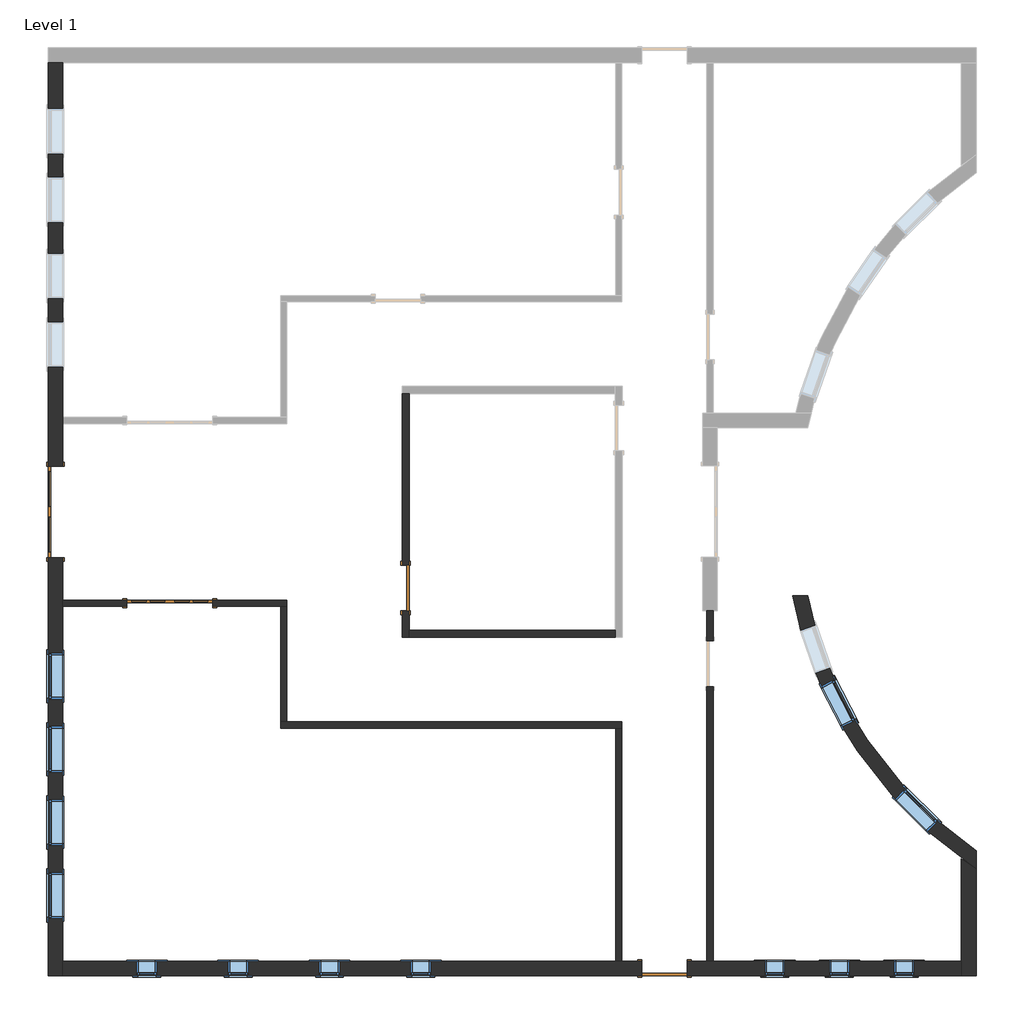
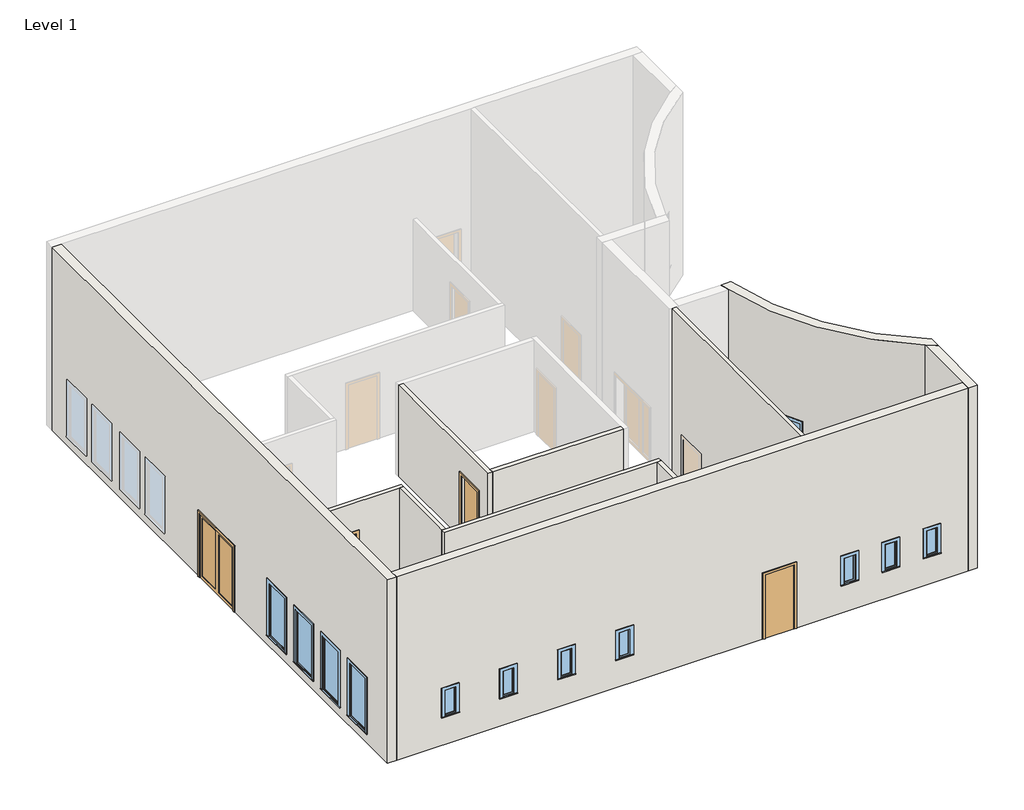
# One storey, part 1 of 2: 13 windows, 11 walls, 4 doors.
"""IFC4 building model written with IfcOpenShell, lengths in millimetres."""

import ifcopenshell
import ifcopenshell.guid

model = None  # the IFC model being written
_history = None  # IfcOwnerHistory: only IFC2X3 demands one
_inside = {}  # id of a spatial element -> (the spatial element, [elements in it])
_under = {}  # id of a project, library or spatial element -> (it, [spatial elements below it])
_declared = {}  # id of a project -> (the project, [libraries it declares])
_typed = {}  # id of a type object -> (the type object, [elements of that type])
_made_of = {}  # id of a material, layer set ... -> (it, [elements and type objects made of it])


def new_model(schema):
    """Start an empty IFC model of exactly this schema.

    Asked for "IFC4X3", IfcOpenShell would pick the latest addendum, in which some entities
    have other attributes; the version numbers below select the first issue.
    IFC2X3 requires an IfcOwnerHistory on every rooted entity: one is made here for all.
    """
    global model, _history
    if schema == "IFC4X3":
        model = ifcopenshell.file(schema_version=(4, 3, 0, 0))
    else:
        model = ifcopenshell.file(schema=schema)
    _inside.clear()
    _under.clear()
    _declared.clear()
    _typed.clear()
    _made_of.clear()
    _history = None
    if model.schema == "IFC2X3":
        org = make("IfcOrganization", Name="unknown")
        user = make(
            "IfcPersonAndOrganization",
            ThePerson=make("IfcPerson", FamilyName="unknown"),
            TheOrganization=org,
        )
        app = make(
            "IfcApplication",
            ApplicationDeveloper=org,
            Version="unknown",
            ApplicationFullName="unknown",
            ApplicationIdentifier="unknown",
        )
        _history = make(
            "IfcOwnerHistory",
            OwningUser=user,
            OwningApplication=app,
            ChangeAction="ADDED",
            CreationDate=0,
        )
    return model


def make(cls, **values):
    """One entity of the class cls with the attributes given. An attribute that is None is left unset."""
    return model.create_entity(
        cls, **{name: value for name, value in values.items() if value is not None}
    )


def rooted(cls, **values):
    """An entity with a GlobalId (a new one), such as an element, a storey or a relation."""
    return make(cls, GlobalId=ifcopenshell.guid.new(), OwnerHistory=_history, **values)


def si_unit(unit_type, name, prefix=None):
    """IfcSIUnit, for example si_unit("LENGTHUNIT", "METRE", prefix="MILLI")."""
    return make("IfcSIUnit", UnitType=unit_type, Prefix=prefix, Name=name)


def assignment(units):
    """IfcUnitAssignment: the units of a project."""
    return None if units is None else make("IfcUnitAssignment", Units=units)


def point(xyz):
    """IfcCartesianPoint."""
    return None if xyz is None else make("IfcCartesianPoint", Coordinates=xyz)


def direction(xyz):
    """IfcDirection."""
    return None if xyz is None else make("IfcDirection", DirectionRatios=xyz)


def frame(location, z_axis=None, x_axis=None):
    """IfcAxis2Placement3D, a coordinate frame: its origin and axes. An axis left out is left unset."""
    return make(
        "IfcAxis2Placement3D",
        Location=point(location),
        Axis=direction(z_axis),
        RefDirection=direction(x_axis),
    )


def origin():
    """The frame at (0, 0, 0) with its axes left unset."""
    return frame((0.0, 0.0, 0.0))


def origin_with_axes():
    """The frame at (0, 0, 0) with the z axis (0, 0, 1) and the x axis (1, 0, 0) written out."""
    return frame((0.0, 0.0, 0.0), z_axis=(0.0, 0.0, 1.0), x_axis=(1.0, 0.0, 0.0))


def place(relative_to, where):
    """IfcLocalPlacement: puts the frame where relative to a parent placement (None: the world)."""
    return make(
        "IfcLocalPlacement", PlacementRelTo=relative_to, RelativePlacement=where
    )


def context(
    kind, dimensions, precision=None, world=None, true_north=None, identifier=None
):
    """IfcGeometricRepresentationContext, for example the 3D "Model" context."""
    return make(
        "IfcGeometricRepresentationContext",
        ContextIdentifier=identifier,
        ContextType=kind,
        CoordinateSpaceDimension=dimensions,
        Precision=precision,
        WorldCoordinateSystem=world,
        TrueNorth=true_north,
    )


def project(units=None, contexts=None):
    """IfcProject with its units and contexts."""
    return rooted(
        "IfcProject",
        Name="project",
        RepresentationContexts=contexts,
        UnitsInContext=assignment(units),
    )


def spatial(cls, under=None, at=None, **own):
    """A site, building, storey or space (cls), placed at a placement, below another one or the project."""
    s = rooted(cls, ObjectPlacement=at, **own)
    if under is not None:
        _under.setdefault(under.id(), (under, []))[1].append(s)
    return s


def polyline(points):
    """IfcPolyline through the points."""
    return make("IfcPolyline", Points=[point(p) for p in points])


def circle_curve(where, radius):
    """IfcCircle in the frame where."""
    return make("IfcCircle", Position=where, Radius=radius)


def outline(outer, holes=None, kind="AREA"):
    """IfcArbitraryClosedProfileDef: a profile drawn as a closed curve; with holes, ...WithVoids."""
    if holes is None:
        return make("IfcArbitraryClosedProfileDef", ProfileType=kind, OuterCurve=outer)
    return make(
        "IfcArbitraryProfileDefWithVoids",
        ProfileType=kind,
        OuterCurve=outer,
        InnerCurves=holes,
    )


def extrude(swept, where, along, depth):
    """IfcExtrudedAreaSolid: the profile swept, set in the frame where, extruded along a direction by depth."""
    return make(
        "IfcExtrudedAreaSolid",
        SweptArea=swept,
        Position=where,
        ExtrudedDirection=direction(along),
        Depth=depth,
    )


def faces_of(points, faces, orient=None, outer=None):
    """IfcFace entities. A face is a list of loops; a loop is a list of indices into points, from 0.

    orient and outer hold one flag for each loop. By default every Orientation is true, the
    first loop of a face is its IfcFaceOuterBound and the others are IfcFaceBound.
    """
    made = []
    for i, loops in enumerate(faces):
        bounds = []
        for j, loop in enumerate(loops):
            is_outer = j == 0 if outer is None else outer[i][j]
            bounds.append(
                make(
                    "IfcFaceOuterBound" if is_outer else "IfcFaceBound",
                    Bound=make("IfcPolyLoop", Polygon=[points[k] for k in loop]),
                    Orientation=True if orient is None else orient[i][j],
                )
            )
        made.append(make("IfcFace", Bounds=bounds))
    return made


def faceted_brep(points, faces, orient=None, outer=None, voids=None):
    """IfcFacetedBrep: a solid bounded by flat faces; with voids (closed shells), ...WithVoids."""
    shared = [point(p) for p in points]
    hull = make("IfcClosedShell", CfsFaces=faces_of(shared, faces, orient, outer))
    if voids is None:
        return make("IfcFacetedBrep", Outer=hull)
    return make(
        "IfcFacetedBrepWithVoids",
        Outer=hull,
        Voids=[
            make(cls, CfsFaces=faces_of(shared, fs, o, b)) for cls, fs, o, b in voids
        ],
    )


def shape(context_of_items, identifier, shape_type, items):
    """IfcShapeRepresentation: the items that make up one representation, for example the "Body"."""
    return make(
        "IfcShapeRepresentation",
        ContextOfItems=context_of_items,
        RepresentationIdentifier=identifier,
        RepresentationType=shape_type,
        Items=items,
    )


def source(mapping_origin, context_of_items, identifier, shape_type, items):
    """IfcRepresentationMap: a shape defined once, which mapped items show again and again."""
    return make(
        "IfcRepresentationMap",
        MappingOrigin=mapping_origin,
        MappedRepresentation=shape(context_of_items, identifier, shape_type, items),
    )


def transform(
    local_origin,
    x_axis=None,
    y_axis=None,
    z_axis=None,
    scale=None,
    scale2=None,
    scale3=None,
    uniform=True,
):
    """IfcCartesianTransformationOperator3D, or its non-uniform kind. x_axis, y_axis, z_axis: its Axis1, 2, 3."""
    if uniform:
        return make(
            "IfcCartesianTransformationOperator3D",
            Axis1=direction(x_axis),
            Axis2=direction(y_axis),
            LocalOrigin=point(local_origin),
            Scale=scale,
            Axis3=direction(z_axis),
        )
    return make(
        "IfcCartesianTransformationOperator3DnonUniform",
        Axis1=direction(x_axis),
        Axis2=direction(y_axis),
        LocalOrigin=point(local_origin),
        Scale=scale,
        Axis3=direction(z_axis),
        Scale2=scale2,
        Scale3=scale3,
    )


def mapped(mapping_source, mapping_target):
    """IfcMappedItem: shows the shape of a source again, moved by a transform."""
    return make(
        "IfcMappedItem", MappingSource=mapping_source, MappingTarget=mapping_target
    )


def made_of(thing, what):
    """Note that an element or type object is made of a material, layer set ...; save() writes the relation."""
    if what is not None:
        _made_of.setdefault(what.id(), (what, []))[1].append(thing)
    return thing


def element(
    cls,
    number,
    at=None,
    inside=None,
    cuts=None,
    type_object=None,
    material=None,
    context=None,
    identifier="Body",
    shape_type=None,
    held_by="IfcProductDefinitionShape",
    body=None,
    shapes=None,
    **own,
):
    """One element of the class cls, such as IfcWall. Its Tag is "e" and its number.

    at: its placement. inside: the storey or other place that contains it. cuts: it is an
    opening in that element (IfcRelVoidsElement). A single representation is given by context,
    identifier, shape_type and body (its items); several are given by shapes. held_by: the class
    of the entity that holds the representations. save() writes the other relations.
    """
    e = rooted(cls, Tag="e%d" % number, ObjectPlacement=at, **own)
    if body is not None:
        shapes = [shape(context, identifier, shape_type, body)]
    if shapes is not None:
        e.Representation = make(held_by, Representations=shapes)
    if inside is not None:
        _inside.setdefault(inside.id(), (inside, []))[1].append(e)
    if cuts is not None:
        rooted(
            "IfcRelVoidsElement", RelatingBuildingElement=cuts, RelatedOpeningElement=e
        )
    if type_object is not None:
        _typed.setdefault(type_object.id(), (type_object, []))[1].append(e)
    return made_of(e, material)


def aggregate(whole, parts):
    """IfcRelAggregates: a whole, such as a stair, and the parts it consists of."""
    return rooted("IfcRelAggregates", RelatingObject=whole, RelatedObjects=parts)


def save(model, path):
    """Write the relations noted so far, then the file.

    IfcRelAggregates (storeys below a building ...), IfcRelContainedInSpatialStructure (elements
    in a storey), IfcRelDefinesByType, IfcRelAssociatesMaterial and IfcRelDeclares: one each for
    every whole, place, type object, material and project.
    """
    for whole, parts in _under.values():
        aggregate(whole, parts)
    for where, things in _inside.values():
        rooted(
            "IfcRelContainedInSpatialStructure",
            RelatedElements=things,
            RelatingStructure=where,
        )
    for kind, things in _typed.values():
        rooted("IfcRelDefinesByType", RelatedObjects=things, RelatingType=kind)
    for what, things in _made_of.values():
        rooted("IfcRelAssociatesMaterial", RelatedObjects=things, RelatingMaterial=what)
    for by, libraries in _declared.values():
        rooted("IfcRelDeclares", RelatingContext=by, RelatedDefinitions=libraries)
    model.write(path)


def plane_surface(at):
    """IfcPlane: the flat surface through the origin of the frame at, square to its z axis."""
    return make("IfcPlane", Position=at)


def cylinder_surface(at, radius):
    """IfcCylindricalSurface: all points at the distance radius from the z axis of the frame at."""
    return make("IfcCylindricalSurface", Position=at, Radius=radius)


def revolved_surface(curve, axis_point, axis_direction):
    """IfcSurfaceOfRevolution: the curve turned about the line through axis_point along axis_direction."""
    return make(
        "IfcSurfaceOfRevolution",
        SweptCurve=make("IfcArbitraryOpenProfileDef", ProfileType="CURVE", Curve=curve),
        AxisPosition=make("IfcAxis1Placement", Location=point(axis_point), Axis=direction(axis_direction)),
    )


def advanced_brep(points, edges, surfaces, faces):
    """IfcAdvancedBrep: a solid bounded by faces that lie on surfaces and meet in shared edges.

    An edge is (start, end): straight between two places in points (the first is 0);
    or (start, end, curve); or (start, end, curve, False) where it runs against its curve.
    A face is (place in surfaces, loops), or (place, loops, False) where it looks against
    its surface's normal. A loop lists edges by number (the first is 1), with a minus sign
    where the edge is run from its end to its start. The first loop is the outer one.
    """
    corners = [point(p) for p in points]
    vertices = [make("IfcVertexPoint", VertexGeometry=c) for c in corners]
    made = []
    for start, end, *more in edges:
        made.append(
            make(
                "IfcEdgeCurve",
                EdgeStart=vertices[start],
                EdgeEnd=vertices[end],
                EdgeGeometry=more[0] if more else make("IfcPolyline", Points=[corners[start], corners[end]]),
                SameSense=more[1] if len(more) > 1 else True,
            )
        )
    hull = []
    for where, loops, *sense in faces:
        bounds = []
        for j, loop in enumerate(loops):
            ring = [make("IfcOrientedEdge", EdgeElement=made[abs(k) - 1], Orientation=k > 0) for k in loop]
            bounds.append(
                make(
                    "IfcFaceOuterBound" if j == 0 else "IfcFaceBound",
                    Bound=make("IfcEdgeLoop", EdgeList=ring),
                    Orientation=True,
                )
            )
        hull.append(make("IfcAdvancedFace", Bounds=bounds, FaceSurface=surfaces[where], SameSense=sense[0] if sense else True))
    return make("IfcAdvancedBrep", Outer=make("IfcClosedShell", CfsFaces=hull))


def door_e9d87526(model_context):
    return source(origin(), model_context, "Body", "SweptSolid", [
        extrude(outline(polyline([(0.0, 990.6), (2209.8, 990.6), (2209.8, -990.6), (0.0, -990.6), (0.0, -914.4), (2133.6, -914.4), (2133.6, 914.4), (0.0, 914.4), (0.0, 990.6)])), frame((0.0, -170.65625, 0.0), z_axis=(0.0, 1.0, 0.0), x_axis=(0.0, 0.0, 1.0)), (0.0, 0.0, 1.0), 25.4),
        extrude(outline(polyline([(2133.6, 914.4), (0.0, 914.4), (0.0, 990.6), (2209.8, 990.6), (2209.8, -990.6), (0.0, -990.6), (0.0, -914.4), (2133.6, -914.4), (2133.6, 914.4)])), frame((0.0, 150.01875, 0.0), z_axis=(0.0, 1.0, 0.0), x_axis=(0.0, 0.0, 1.0)), (0.0, 0.0, 1.0), 25.4),
        extrude(outline(polyline([(812.8, 124.61875), (101.6, 124.61875), (101.6, 131.7625), (812.8, 131.7625), (812.8, 124.61875)])), frame((0.0, 0.0, 101.6), z_axis=(0.0, 0.0, 1.0), x_axis=(1.0, 0.0, 0.0)), (0.0, 0.0, 1.0), 1930.4),
        extrude(outline(polyline([(-101.6, 124.61875), (-812.8, 124.61875), (-812.8, 131.7625), (-101.6, 131.7625), (-101.6, 124.61875)])), frame((0.0, 0.0, 101.6), z_axis=(0.0, 0.0, 1.0), x_axis=(1.0, 0.0, 0.0)), (0.0, 0.0, 1.0), 1930.4),
        extrude(outline(polyline([(2133.6, 914.4), (2133.6, -914.4), (0.0, -914.4), (0.0, 914.4), (2133.6, 914.4)]), holes=[polyline([(2032.0, -101.6), (101.6, -101.6), (101.6, -812.8), (2032.0, -812.8), (2032.0, -101.6)]), polyline([(2032.0, 812.8), (101.6, 812.8), (101.6, 101.6), (2032.0, 101.6), (2032.0, 812.8)])]), frame((0.0, 99.21875, 0.0), z_axis=(0.0, 1.0, 0.0), x_axis=(0.0, 0.0, 1.0)), (0.0, 0.0, 1.0), 50.8),
    ])


def door_c173eac2(model_context):
    return source(origin(), model_context, "Body", "SweptSolid", [
        extrude(outline(polyline([(2108.2, -939.8), (0.0, -939.8), (0.0, -863.6), (2032.0, -863.6), (2032.0, 863.6), (0.0, 863.6), (0.0, 939.8), (2108.2, 939.8), (2108.2, -939.8)])), frame((0.0, 61.9125, 0.0), z_axis=(0.0, 1.0, 0.0), x_axis=(0.0, 0.0, 1.0)), (0.0, 0.0, 1.0), 25.4),
        extrude(outline(polyline([(469.9, 49.2125), (762.0, 49.2125), (762.0, 23.8125), (469.9, 23.8125), (469.9, 49.2125)])), frame((0.0, 0.0, 1066.8), z_axis=(0.0, 0.0, 1.0), x_axis=(1.0, 0.0, 0.0)), (0.0, 0.0, 1.0), 787.4),
        extrude(outline(polyline([(101.6, 49.2125), (393.7, 49.2125), (393.7, 23.8125), (101.6, 23.8125), (101.6, 49.2125)])), frame((0.0, 0.0, 1066.8), z_axis=(0.0, 0.0, 1.0), x_axis=(1.0, 0.0, 0.0)), (0.0, 0.0, 1.0), 787.4),
        extrude(outline(polyline([(469.9, 49.2125), (762.0, 49.2125), (762.0, 23.8125), (469.9, 23.8125), (469.9, 49.2125)])), frame((0.0, 0.0, 304.8), z_axis=(0.0, 0.0, 1.0), x_axis=(1.0, 0.0, 0.0)), (0.0, 0.0, 1.0), 558.8),
        extrude(outline(polyline([(101.6, 49.2125), (393.7, 49.2125), (393.7, 23.8125), (101.6, 23.8125), (101.6, 49.2125)])), frame((0.0, 0.0, 304.8), z_axis=(0.0, 0.0, 1.0), x_axis=(1.0, 0.0, 0.0)), (0.0, 0.0, 1.0), 558.8),
        extrude(outline(polyline([(-393.7, 49.2125), (-101.6, 49.2125), (-101.6, 23.8125), (-393.7, 23.8125), (-393.7, 49.2125)])), frame((0.0, 0.0, 1066.8), z_axis=(0.0, 0.0, 1.0), x_axis=(1.0, 0.0, 0.0)), (0.0, 0.0, 1.0), 787.4),
        extrude(outline(polyline([(-762.0, 49.2125), (-469.9, 49.2125), (-469.9, 23.8125), (-762.0, 23.8125), (-762.0, 49.2125)])), frame((0.0, 0.0, 1066.8), z_axis=(0.0, 0.0, 1.0), x_axis=(1.0, 0.0, 0.0)), (0.0, 0.0, 1.0), 787.4),
        extrude(outline(polyline([(-393.7, 49.2125), (-101.6, 49.2125), (-101.6, 23.8125), (-393.7, 23.8125), (-393.7, 49.2125)])), frame((0.0, 0.0, 304.8), z_axis=(0.0, 0.0, 1.0), x_axis=(1.0, 0.0, 0.0)), (0.0, 0.0, 1.0), 558.8),
        extrude(outline(polyline([(-762.0, 49.2125), (-469.9, 49.2125), (-469.9, 23.8125), (-762.0, 23.8125), (-762.0, 49.2125)])), frame((0.0, 0.0, 304.8), z_axis=(0.0, 0.0, 1.0), x_axis=(1.0, 0.0, 0.0)), (0.0, 0.0, 1.0), 558.8),
        extrude(outline(polyline([(2032.0, 0.0), (2032.0, -863.6), (0.0, -863.6), (0.0, 0.0), (0.0, 863.6), (2032.0, 863.6), (2032.0, 0.0)]), holes=[polyline([(1854.2, 469.9), (1854.2, 762.0), (1066.8, 762.0), (1066.8, 469.9), (1854.2, 469.9)]), polyline([(1854.2, 101.6), (1854.2, 393.7), (1066.8, 393.7), (1066.8, 101.6), (1854.2, 101.6)]), polyline([(863.6, 469.9), (863.6, 762.0), (304.8, 762.0), (304.8, 469.9), (863.6, 469.9)]), polyline([(863.6, 101.6), (863.6, 393.7), (304.8, 393.7), (304.8, 101.6), (863.6, 101.6)]), polyline([(1066.8, -393.7), (1854.2, -393.7), (1854.2, -101.6), (1066.8, -101.6), (1066.8, -393.7)]), polyline([(1854.2, -762.0), (1854.2, -469.9), (1066.8, -469.9), (1066.8, -762.0), (1854.2, -762.0)]), polyline([(863.6, -393.7), (863.6, -101.6), (304.8, -101.6), (304.8, -393.7), (863.6, -393.7)]), polyline([(863.6, -762.0), (863.6, -469.9), (304.8, -469.9), (304.8, -762.0), (863.6, -762.0)])]), frame((0.0, 11.1125, 0.0), z_axis=(0.0, 1.0, 0.0), x_axis=(0.0, 0.0, 1.0)), (0.0, 0.0, 1.0), 50.8),
        extrude(outline(polyline([(2032.0, -863.6), (2032.0, 863.6), (0.0, 863.6), (0.0, 939.8), (2108.2, 939.8), (2108.2, -939.8), (0.0, -939.8), (0.0, -863.6), (2032.0, -863.6)])), frame((0.0, -87.3125, 0.0), z_axis=(0.0, 1.0, 0.0), x_axis=(0.0, 0.0, 1.0)), (0.0, 0.0, 1.0), 25.4),
    ])


def door_7b231ec9(model_context):
    return source(origin(), model_context, "Body", "SweptSolid", [
        extrude(outline(polyline([(2209.8, -533.4), (0.0, -533.4), (0.0, -457.2), (2133.6, -457.2), (2133.6, 457.2), (0.0, 457.2), (0.0, 533.4), (2209.8, 533.4), (2209.8, -533.4)])), frame((0.0, 147.6375, 0.0), z_axis=(0.0, 1.0, 0.0), x_axis=(0.0, 0.0, 1.0)), (0.0, 0.0, 1.0), 25.4),
        extrude(outline(polyline([(2209.8, 533.4), (2209.8, -533.4), (0.0, -533.4), (0.0, -457.2), (2133.6, -457.2), (2133.6, 457.2), (0.0, 457.2), (0.0, 533.4), (2209.8, 533.4)])), frame((0.0, -173.0375, 0.0), z_axis=(0.0, 1.0, 0.0), x_axis=(0.0, 0.0, 1.0)), (0.0, 0.0, 1.0), 25.4),
        extrude(outline(polyline([(457.2, 96.8375), (-457.2, 96.8375), (-457.2, 147.6375), (457.2, 147.6375), (457.2, 96.8375)])), origin_with_axes(), (0.0, 0.0, 1.0), 2133.6),
    ])


def door_3dff5d0e(model_context):
    return source(origin(), model_context, "Body", "SweptSolid", [
        extrude(outline(polyline([(2209.8, -533.4), (0.0, -533.4), (0.0, -457.2), (2133.6, -457.2), (2133.6, 457.2), (0.0, 457.2), (0.0, 533.4), (2209.8, 533.4), (2209.8, -533.4)])), frame((0.0, 71.4375, 0.0), z_axis=(0.0, 1.0, 0.0), x_axis=(0.0, 0.0, 1.0)), (0.0, 0.0, 1.0), 25.4),
        extrude(outline(polyline([(2209.8, 533.4), (2209.8, -533.4), (0.0, -533.4), (0.0, -457.2), (2133.6, -457.2), (2133.6, 457.2), (0.0, 457.2), (0.0, 533.4), (2209.8, 533.4)])), frame((0.0, -96.8375, 0.0), z_axis=(0.0, 1.0, 0.0), x_axis=(0.0, 0.0, 1.0)), (0.0, 0.0, 1.0), 25.4),
        extrude(outline(polyline([(457.2, 20.6375), (-457.2, 20.6375), (-457.2, 71.4375), (457.2, 71.4375), (457.2, 20.6375)])), origin_with_axes(), (0.0, 0.0, 1.0), 2133.6),
    ])


def fixed_6768491c(model_context):
    return source(origin(), model_context, "Body", "SweptSolid", [
        extrude(outline(polyline([(-571.5, 179.3875), (495.3, 179.3875), (495.3, 147.6375), (-571.5, 147.6375), (-571.5, 179.3875)])), frame((0.0, 0.0, 304.8), z_axis=(0.0, 0.0, 1.0), x_axis=(1.0, 0.0, 0.0)), (0.0, 0.0, 1.0), 19.05),
        extrude(outline(polyline([(2114.55, -476.25), (2114.55, 400.05), (323.85, 400.05), (323.85, 495.3), (2209.8, 495.3), (2209.8, -571.5), (323.85, -571.5), (323.85, -476.25), (2114.55, -476.25)])), frame((0.0, 147.6375, 0.0), z_axis=(0.0, 1.0, 0.0), x_axis=(0.0, 0.0, 1.0)), (0.0, 0.0, 1.0), 19.05),
        extrude(outline(polyline([(2197.1, 482.6), (2197.1, -558.8), (241.3, -558.8), (241.3, 482.6), (2197.1, 482.6)]), holes=[polyline([(2101.85, 387.35), (336.55, 387.35), (336.55, -463.55), (2101.85, -463.55), (2101.85, 387.35)])]), frame((0.0, -166.6875, 0.0), z_axis=(0.0, 1.0, 0.0), x_axis=(0.0, 0.0, 1.0)), (0.0, 0.0, 1.0), 19.05),
        extrude(outline(polyline([(355.6, 100.0125), (-431.8, 100.0125), (-431.8, 112.7125), (355.6, 112.7125), (355.6, 100.0125)])), frame((0.0, 0.0, 368.3), z_axis=(0.0, 0.0, 1.0), x_axis=(1.0, 0.0, 0.0)), (0.0, 0.0, 1.0), 1701.8),
        extrude(outline(polyline([(2114.55, -476.25), (323.85, -476.25), (323.85, 400.05), (2114.55, 400.05), (2114.55, -476.25)]), holes=[polyline([(2070.1, -431.8), (2070.1, 355.6), (368.3, 355.6), (368.3, -431.8), (2070.1, -431.8)])]), frame((0.0, 84.1375, 0.0), z_axis=(0.0, 1.0, 0.0), x_axis=(0.0, 0.0, 1.0)), (0.0, 0.0, 1.0), 44.45),
        extrude(outline(polyline([(2133.6, -495.3), (304.8, -495.3), (304.8, 419.1), (2133.6, 419.1), (2133.6, -495.3)]), holes=[polyline([(2101.85, -463.55), (2101.85, 387.35), (336.55, 387.35), (336.55, -463.55), (2101.85, -463.55)])]), frame((0.0, -147.6375, 0.0), z_axis=(0.0, 1.0, 0.0), x_axis=(0.0, 0.0, 1.0)), (0.0, 0.0, 1.0), 231.775),
        extrude(outline(polyline([(2133.6, 419.1), (2133.6, -495.3), (304.8, -495.3), (304.8, 419.1), (2133.6, 419.1)]), holes=[polyline([(2114.55, 400.05), (323.85, 400.05), (323.85, -476.25), (2114.55, -476.25), (2114.55, 400.05)])]), frame((0.0, 84.1375, 0.0), z_axis=(0.0, 1.0, 0.0), x_axis=(0.0, 0.0, 1.0)), (0.0, 0.0, 1.0), 63.5),
    ])


def fixed_431f5485(model_context):
    return source(origin(), model_context, "Body", "SweptSolid", [
        extrude(outline(polyline([(-317.5, 179.3875), (241.3, 179.3875), (241.3, 147.6375), (-317.5, 147.6375), (-317.5, 179.3875)])), frame((0.0, 0.0, 914.4), z_axis=(0.0, 0.0, 1.0), x_axis=(1.0, 0.0, 0.0)), (0.0, 0.0, 1.0), 19.05),
        extrude(outline(polyline([(1809.75, -222.25), (1809.75, 146.05), (933.45, 146.05), (933.45, 241.3), (1905.0, 241.3), (1905.0, -317.5), (933.45, -317.5), (933.45, -222.25), (1809.75, -222.25)])), frame((0.0, 147.6375, 0.0), z_axis=(0.0, 1.0, 0.0), x_axis=(0.0, 0.0, 1.0)), (0.0, 0.0, 1.0), 19.05),
        extrude(outline(polyline([(2032.0, 368.3), (2032.0, -444.5), (711.2, -444.5), (711.2, 368.3), (2032.0, 368.3)]), holes=[polyline([(1797.05, 133.35), (946.15, 133.35), (946.15, -209.55), (1797.05, -209.55), (1797.05, 133.35)])]), frame((0.0, -166.6875, 0.0), z_axis=(0.0, 1.0, 0.0), x_axis=(0.0, 0.0, 1.0)), (0.0, 0.0, 1.0), 19.05),
        extrude(outline(polyline([(101.6, 100.0125), (-177.8, 100.0125), (-177.8, 112.7125), (101.6, 112.7125), (101.6, 100.0125)])), frame((0.0, 0.0, 977.9), z_axis=(0.0, 0.0, 1.0), x_axis=(1.0, 0.0, 0.0)), (0.0, 0.0, 1.0), 787.4),
        extrude(outline(polyline([(1809.75, -222.25), (933.45, -222.25), (933.45, 146.05), (1809.75, 146.05), (1809.75, -222.25)]), holes=[polyline([(1765.3, -177.8), (1765.3, 101.6), (977.9, 101.6), (977.9, -177.8), (1765.3, -177.8)])]), frame((0.0, 84.1375, 0.0), z_axis=(0.0, 1.0, 0.0), x_axis=(0.0, 0.0, 1.0)), (0.0, 0.0, 1.0), 44.45),
        extrude(outline(polyline([(1828.8, -241.3), (914.4, -241.3), (914.4, 165.1), (1828.8, 165.1), (1828.8, -241.3)]), holes=[polyline([(1797.05, -209.55), (1797.05, 133.35), (946.15, 133.35), (946.15, -209.55), (1797.05, -209.55)])]), frame((0.0, -147.6375, 0.0), z_axis=(0.0, 1.0, 0.0), x_axis=(0.0, 0.0, 1.0)), (0.0, 0.0, 1.0), 231.775),
        extrude(outline(polyline([(1828.8, 165.1), (1828.8, -241.3), (914.4, -241.3), (914.4, 165.1), (1828.8, 165.1)]), holes=[polyline([(1809.75, 146.05), (933.45, 146.05), (933.45, -222.25), (1809.75, -222.25), (1809.75, 146.05)])]), frame((0.0, 84.1375, 0.0), z_axis=(0.0, 1.0, 0.0), x_axis=(0.0, 0.0, 1.0)), (0.0, 0.0, 1.0), 63.5),
    ])


model = new_model("IFC4")

# Units and contexts
model_context = context("Model", 3, world=origin())
ifc_project = project(units=[si_unit("LENGTHUNIT", "METRE", prefix="MILLI")], contexts=[model_context])

# Site, building, storey
site = spatial("IfcSite", under=ifc_project)
building = spatial("IfcBuilding", under=site)
storey = spatial("IfcBuildingStorey", under=building, Name="Level 1", Elevation=0.0)

# Doors
placement = place(None, origin())
door_shape = door_e9d87526(model_context)
element("IfcDoor", 1, ObjectType="Double-Glass 1 : 72\" x 84\"", at=placement, inside=storey, context=model_context, shape_type="MappedRepresentation", body=[
    mapped(door_shape, transform((-10745.5063726, -435.5710073, 0.0), x_axis=(0.0, 1.0, 0.0), y_axis=(-1.0, 0.0, 0.0), z_axis=(0.0, 0.0, 1.0))),
])
door_2_shape = door_c173eac2(model_context)
element("IfcDoor", 2, ObjectType="Double-Panel 2 : 68\" x 80\"", at=placement, inside=storey, context=model_context, shape_type="MappedRepresentation", body=[
    mapped(door_2_shape, transform((-8461.8876226, -2264.3710073, 0.0), x_axis=(1.0, 0.0, 0.0), y_axis=(0.0, 1.0, 0.0), z_axis=(0.0, 0.0, 1.0))),
])
door_3_shape = door_7b231ec9(model_context)
element("IfcDoor", 3, ObjectType="Sgl Flush : 36\" x 84\"", at=placement, inside=storey, context=model_context, shape_type="MappedRepresentation", body=[
    mapped(door_3_shape, transform((1444.1123774, -9579.5710073, 0.0), x_axis=(-1.0, 0.0, 0.0), y_axis=(0.0, -1.0, 0.0), z_axis=(0.0, 0.0, 1.0))),
])
door_4_shape = door_3dff5d0e(model_context)
element("IfcDoor", 4, ObjectType="Sgl Flush : 36\" x 84\"", at=placement, inside=storey, context=model_context, shape_type="MappedRepresentation", body=[
    mapped(door_4_shape, transform((-3737.4876226, -1959.5710073, 0.0), x_axis=(0.0, -1.0, 0.0), y_axis=(1.0, 0.0, 0.0), z_axis=(0.0, 0.0, 1.0))),
])

# Walls
element("IfcWall", 5, ObjectType="Generic - 12\" Masonry", at=placement, inside=storey, context=model_context, shape_type="Brep", body=[
    faceted_brep([(-10600.2501226, 478.8289927, 2133.6), (-10600.2501226, 478.8289927, 0.0), (-10600.2501226, 1331.3164927, 0.0), (-10600.2501226, 1455.1414927, 0.0), (-10600.2501226, 8560.7914927, 0.0), (-10600.2501226, 8560.7914927, 6096.0), (-10600.2501226, -9431.9335073, 6096.0), (-10600.2501226, -9727.2085073, 6096.0), (-10600.2501226, -9727.2085073, 0.0), (-10600.2501226, -9431.9335073, 0.0), (-10600.2501226, -2326.2835073, 0.0), (-10600.2501226, -2202.4585073, 0.0), (-10600.2501226, -1349.9710073, 0.0), (-10600.2501226, -1349.9710073, 2133.6), (-10600.2501226, 6727.2289927, 2133.6), (-10600.2501226, 7641.6289927, 2133.6), (-10600.2501226, 7641.6289927, 304.8), (-10600.2501226, 6727.2289927, 304.8), (-10600.2501226, 3831.6289927, 2133.6), (-10600.2501226, 4746.0289927, 2133.6), (-10600.2501226, 4746.0289927, 304.8), (-10600.2501226, 3831.6289927, 304.8), (-10600.2501226, 5355.6289927, 2133.6), (-10600.2501226, 6270.0289927, 2133.6), (-10600.2501226, 6270.0289927, 304.8), (-10600.2501226, 5355.6289927, 304.8), (-10600.2501226, 2460.0289927, 2133.6), (-10600.2501226, 3374.4289927, 2133.6), (-10600.2501226, 3374.4289927, 304.8), (-10600.2501226, 2460.0289927, 304.8), (-10600.2501226, -7659.3310073, 2133.6), (-10600.2501226, -7659.3310073, 304.8), (-10600.2501226, -8573.7310073, 304.8), (-10600.2501226, -8573.7310073, 2133.6), (-10600.2501226, -4733.2510073, 2133.6), (-10600.2501226, -4733.2510073, 304.8), (-10600.2501226, -5647.6510073, 304.8), (-10600.2501226, -5647.6510073, 2133.6), (-10600.2501226, -6196.2910073, 2133.6), (-10600.2501226, -6196.2910073, 304.8), (-10600.2501226, -7110.6910073, 304.8), (-10600.2501226, -7110.6910073, 2133.6), (-10600.2501226, -3270.2110073, 2133.6), (-10600.2501226, -3270.2110073, 304.8), (-10600.2501226, -4184.6110073, 304.8), (-10600.2501226, -4184.6110073, 2133.6), (-10895.5251226, 8560.7914927, 0.0), (-10895.5251226, 478.8289927, 0.0), (-10895.5251226, 478.8289927, 2133.6), (-10895.5251226, -1349.9710073, 2133.6), (-10895.5251226, -1349.9710073, 0.0), (-10895.5251226, -9727.2085073, 0.0), (-10895.5251226, -9727.2085073, 6096.0), (-10895.5251226, 8560.7914927, 6096.0), (-10895.5251226, 6727.2289927, 2133.6), (-10895.5251226, 6727.2289927, 304.8), (-10895.5251226, 7641.6289927, 304.8), (-10895.5251226, 7641.6289927, 2133.6), (-10895.5251226, 3831.6289927, 2133.6), (-10895.5251226, 3831.6289927, 304.8), (-10895.5251226, 4746.0289927, 304.8), (-10895.5251226, 4746.0289927, 2133.6), (-10895.5251226, 5355.6289927, 2133.6), (-10895.5251226, 5355.6289927, 304.8), (-10895.5251226, 6270.0289927, 304.8), (-10895.5251226, 6270.0289927, 2133.6), (-10895.5251226, 2460.0289927, 2133.6), (-10895.5251226, 2460.0289927, 304.8), (-10895.5251226, 3374.4289927, 304.8), (-10895.5251226, 3374.4289927, 2133.6), (-10895.5251226, -7659.3310073, 2133.6), (-10895.5251226, -8573.7310073, 2133.6), (-10895.5251226, -8573.7310073, 304.8), (-10895.5251226, -7659.3310073, 304.8), (-10895.5251226, -4733.2510073, 2133.6), (-10895.5251226, -5647.6510073, 2133.6), (-10895.5251226, -5647.6510073, 304.8), (-10895.5251226, -4733.2510073, 304.8), (-10895.5251226, -6196.2910073, 2133.6), (-10895.5251226, -7110.6910073, 2133.6), (-10895.5251226, -7110.6910073, 304.8), (-10895.5251226, -6196.2910073, 304.8), (-10895.5251226, -3270.2110073, 2133.6), (-10895.5251226, -4184.6110073, 2133.6), (-10895.5251226, -4184.6110073, 304.8), (-10895.5251226, -3270.2110073, 304.8)], [[[0, 1, 2, 3, 4, 5, 6, 7, 8, 9, 10, 11, 12, 13], [14, 15, 16, 17], [18, 19, 20, 21], [22, 23, 24, 25], [26, 27, 28, 29], [30, 31, 32, 33], [34, 35, 36, 37], [38, 39, 40, 41], [42, 43, 44, 45]], [[46, 47, 48, 49, 50, 51, 52, 53], [54, 55, 56, 57], [58, 59, 60, 61], [62, 63, 64, 65], [66, 67, 68, 69], [70, 71, 72, 73], [74, 75, 76, 77], [78, 79, 80, 81], [82, 83, 84, 85]], [[4, 3, 2, 1, 47, 46]], [[12, 11, 10, 9, 8, 51, 50]], [[7, 6, 5, 53, 52]], [[8, 7, 52, 51]], [[5, 4, 46, 53]], [[48, 47, 1, 0]], [[49, 48, 0, 13]], [[50, 49, 13, 12]], [[55, 54, 14, 17]], [[56, 55, 17, 16]], [[57, 56, 16, 15]], [[54, 57, 15, 14]], [[59, 58, 18, 21]], [[60, 59, 21, 20]], [[61, 60, 20, 19]], [[58, 61, 19, 18]], [[63, 62, 22, 25]], [[64, 63, 25, 24]], [[65, 64, 24, 23]], [[62, 65, 23, 22]], [[67, 66, 26, 29]], [[68, 67, 29, 28]], [[69, 68, 28, 27]], [[66, 69, 27, 26]], [[31, 30, 70, 73]], [[32, 31, 73, 72]], [[33, 32, 72, 71]], [[30, 33, 71, 70]], [[35, 34, 74, 77]], [[36, 35, 77, 76]], [[37, 36, 76, 75]], [[34, 37, 75, 74]], [[39, 38, 78, 81]], [[40, 39, 81, 80]], [[41, 40, 80, 79]], [[38, 41, 79, 78]], [[43, 42, 82, 85]], [[44, 43, 85, 84]], [[45, 44, 84, 83]], [[42, 45, 83, 82]]]),
])
element("IfcWall", 6, ObjectType="Generic - 12\" Masonry", at=placement, inside=storey, context=model_context, shape_type="Brep", body=[
    faceted_brep([(986.9123774, -9431.9335073, 2133.6), (986.9123774, -9431.9335073, 0.0), (591.6248774, -9431.9335073, 0.0), (467.7998774, -9431.9335073, 0.0), (-10600.2501226, -9431.9335073, 0.0), (-10600.2501226, -9431.9335073, 6096.0), (2296.5998774, -9431.9335073, 6096.0), (2420.4248774, -9431.9335073, 6096.0), (7392.4748774, -9431.9335073, 6096.0), (7392.4748774, -9431.9335073, 0.0), (2420.4248774, -9431.9335073, 0.0), (2296.5998774, -9431.9335073, 0.0), (1901.3123774, -9431.9335073, 0.0), (1901.3123774, -9431.9335073, 2133.6), (6041.5123774, -9431.9335073, 1828.8), (6041.5123774, -9431.9335073, 914.4), (6447.9123774, -9431.9335073, 914.4), (6447.9123774, -9431.9335073, 1828.8), (4746.1123774, -9431.9335073, 1828.8), (4746.1123774, -9431.9335073, 914.4), (5152.5123774, -9431.9335073, 914.4), (5152.5123774, -9431.9335073, 1828.8), (3450.7123774, -9431.9335073, 1828.8), (3450.7123774, -9431.9335073, 914.4), (3857.1123774, -9431.9335073, 914.4), (3857.1123774, -9431.9335073, 1828.8), (-3635.8876226, -9431.9335073, 1828.8), (-3635.8876226, -9431.9335073, 914.4), (-3229.4876226, -9431.9335073, 914.4), (-3229.4876226, -9431.9335073, 1828.8), (-5464.6876226, -9431.9335073, 1828.8), (-5464.6876226, -9431.9335073, 914.4), (-5058.2876226, -9431.9335073, 914.4), (-5058.2876226, -9431.9335073, 1828.8), (-7293.4876226, -9431.9335073, 1828.8), (-7293.4876226, -9431.9335073, 914.4), (-6887.0876226, -9431.9335073, 914.4), (-6887.0876226, -9431.9335073, 1828.8), (-9122.2876226, -9431.9335073, 1828.8), (-9122.2876226, -9431.9335073, 914.4), (-8715.8876226, -9431.9335073, 914.4), (-8715.8876226, -9431.9335073, 1828.8), (-10600.2501226, -9727.2085073, 0.0), (986.9123774, -9727.2085073, 0.0), (986.9123774, -9727.2085073, 2133.6), (1901.3123774, -9727.2085073, 2133.6), (1901.3123774, -9727.2085073, 0.0), (7392.4748774, -9727.2085073, 0.0), (7392.4748774, -9727.2085073, 6096.0), (-10600.2501226, -9727.2085073, 6096.0), (6041.5123774, -9727.2085073, 1828.8), (6447.9123774, -9727.2085073, 1828.8), (6447.9123774, -9727.2085073, 914.4), (6041.5123774, -9727.2085073, 914.4), (4746.1123774, -9727.2085073, 1828.8), (5152.5123774, -9727.2085073, 1828.8), (5152.5123774, -9727.2085073, 914.4), (4746.1123774, -9727.2085073, 914.4), (3450.7123774, -9727.2085073, 1828.8), (3857.1123774, -9727.2085073, 1828.8), (3857.1123774, -9727.2085073, 914.4), (3450.7123774, -9727.2085073, 914.4), (-3635.8876226, -9727.2085073, 1828.8), (-3229.4876226, -9727.2085073, 1828.8), (-3229.4876226, -9727.2085073, 914.4), (-3635.8876226, -9727.2085073, 914.4), (-5464.6876226, -9727.2085073, 1828.8), (-5058.2876226, -9727.2085073, 1828.8), (-5058.2876226, -9727.2085073, 914.4), (-5464.6876226, -9727.2085073, 914.4), (-7293.4876226, -9727.2085073, 1828.8), (-6887.0876226, -9727.2085073, 1828.8), (-6887.0876226, -9727.2085073, 914.4), (-7293.4876226, -9727.2085073, 914.4), (-9122.2876226, -9727.2085073, 1828.8), (-8715.8876226, -9727.2085073, 1828.8), (-8715.8876226, -9727.2085073, 914.4), (-9122.2876226, -9727.2085073, 914.4)], [[[0, 1, 2, 3, 4, 5, 6, 7, 8, 9, 10, 11, 12, 13], [14, 15, 16, 17], [18, 19, 20, 21], [22, 23, 24, 25], [26, 27, 28, 29], [30, 31, 32, 33], [34, 35, 36, 37], [38, 39, 40, 41]], [[42, 43, 44, 45, 46, 47, 48, 49], [50, 51, 52, 53], [54, 55, 56, 57], [58, 59, 60, 61], [62, 63, 64, 65], [66, 67, 68, 69], [70, 71, 72, 73], [74, 75, 76, 77]], [[4, 3, 2, 1, 43, 42]], [[12, 11, 10, 9, 47, 46]], [[8, 7, 6, 5, 49, 48]], [[5, 4, 42, 49]], [[9, 8, 48, 47]], [[44, 43, 1, 0]], [[45, 44, 0, 13]], [[46, 45, 13, 12]], [[15, 14, 50, 53]], [[16, 15, 53, 52]], [[17, 16, 52, 51]], [[14, 17, 51, 50]], [[19, 18, 54, 57]], [[20, 19, 57, 56]], [[21, 20, 56, 55]], [[18, 21, 55, 54]], [[23, 22, 58, 61]], [[24, 23, 61, 60]], [[25, 24, 60, 59]], [[22, 25, 59, 58]], [[27, 26, 62, 65]], [[28, 27, 65, 64]], [[29, 28, 64, 63]], [[26, 29, 63, 62]], [[31, 30, 66, 69]], [[32, 31, 69, 68]], [[33, 32, 68, 67]], [[30, 33, 67, 66]], [[35, 34, 70, 73]], [[36, 35, 73, 72]], [[37, 36, 72, 71]], [[34, 37, 71, 70]], [[39, 38, 74, 77]], [[40, 39, 77, 76]], [[41, 40, 76, 75]], [[38, 41, 75, 74]]]),
])
element("IfcWall", 7, ObjectType="Generic - 12\" Masonry", at=placement, inside=storey, context=model_context, shape_type="AdvancedBrep", body=[
    advanced_brep(
    [(7392.4748774, -7378.5850292, 0.0), (7392.4748774, -9431.9335073, 0.0), (7392.4748774, -9727.2085073, 0.0), (7392.4748774, -9727.2085073, 6096.0), (7392.4748774, -9431.9335073, 6096.0), (7392.4748774, -7378.5850292, 6096.0), (7687.7498774, -7582.8871074, 0.0), (7687.7498774, -7582.8871074, 6096.0), (7687.7498774, -9727.2085073, 6096.0), (7687.7498774, -9727.2085073, 0.0)],
    [
        (0, 1),
        (1, 2),
        (2, 3),
        (3, 4),
        (4, 5),
        (5, 0),
        (6, 7),
        (7, 8),
        (8, 9),
        (9, 6),
        (0, 6, circle_curve(frame((12414.6932373, -435.5710073, 0.0), z_axis=(0.0, 0.0, 1.0), x_axis=(1.0, 0.0, 0.0)), 8569.0210037)),
        (9, 2),
        (3, 8),
        (7, 5, circle_curve(frame((12414.6932373, -435.5710073, 6096.0), z_axis=(0.0, 0.0, -1.0), x_axis=(1.0, 0.0, 0.0)), 8569.0210037)),
    ],
    [
        plane_surface(frame((7392.4748774, 8846.8596294, 0.0), z_axis=(-1.0, 0.0, 0.0), x_axis=(0.0, -1.0, 0.0))),
        plane_surface(frame((7687.7498774, 8846.8596294, 0.0), z_axis=(1.0, 0.0, 0.0), x_axis=(0.0, 1.0, 0.0))),
        plane_surface(frame((7392.4748774, -7302.7510368, 0.0), z_axis=(0.0, 0.0, -1.0), x_axis=(1.0, 0.0, 0.0))),
        plane_surface(frame((7392.4748774, -9579.5710073, 6096.0), z_axis=(0.0, 0.0, 1.0), x_axis=(1.0, 0.0, 0.0))),
        plane_surface(frame((7540.1123774, -9727.2085073, 0.0), z_axis=(0.0, -1.0, 0.0), x_axis=(1.0, 0.0, 0.0))),
        revolved_surface(polyline([(20983.714241, -435.5710073, 6096.0), (20983.714241, -435.5710073, 0.0)]), (12414.6932373, -435.5710073, 0.0), (0.0, 0.0, 1.0)),
    ],
    [
        (0, [[1, 2, 3, 4, 5, 6]]),
        (1, [[7, 8, 9, 10]]),
        (2, [[-2, -1, 11, -10, 12]]),
        (3, [[-5, -4, 13, -8, 14]]),
        (4, [[-3, -12, -9, -13]]),
        (5, [[-6, -14, -7, -11]]),
    ],
),
])
element("IfcWall", 8, ObjectType="Generic - 12\" Masonry", at=placement, inside=storey, context=model_context, shape_type="AdvancedBrep", body=[
    advanced_brep(
    [(7687.7498774, -7226.0702089, 6096.0), (4313.5472948, -2116.7335073, 6096.0), (4012.2047005, -2116.7335073, 6096.0), (4076.7199892, -2412.0129973, 6096.0), (7392.4783745, -7378.5874332, 6096.0), (7687.7498774, -7582.8871074, 6096.0), (7687.7498774, -7226.0702089, 0.0), (7687.7498774, -7582.8871074, 0.0), (7392.4783745, -7378.5874332, 0.0), (4076.7199892, -2412.0129973, 0.0), (4012.2047005, -2116.7335073, 0.0), (4313.5472948, -2116.7335073, 0.0), (6922.7409562, -6623.7317256, 2743.2), (6273.4213207, -5979.9061506, 2743.2), (6273.4213207, -5979.9061506, 914.4), (6922.7409562, -6623.7317256, 914.4), (5269.4263488, -4606.9058088, 2743.2), (4852.7592551, -3792.9550161, 2743.2), (4852.7592551, -3792.9550161, 914.4), (5269.4263488, -4606.9058088, 914.4), (4758.4259955, -3571.8817152, 2743.2), (4459.0939332, -2707.8633842, 2743.2), (4459.0939332, -2707.8633842, 914.4), (4758.4259955, -3571.8817152, 914.4), (6714.5317839, -6833.7176427, 2743.2), (6714.5317839, -6833.7176427, 914.4), (6065.2121485, -6189.8920676, 914.4), (6065.2121485, -6189.8920676, 2743.2), (5006.1997431, -4741.6533461, 2743.2), (5006.1997431, -4741.6533461, 914.4), (4589.5326494, -3927.7025534, 914.4), (4589.5326494, -3927.7025534, 2743.2), (4479.0078605, -3668.6838358, 2743.2), (4479.0078605, -3668.6838358, 914.4), (4179.6757981, -2804.6655047, 914.4), (4179.6757981, -2804.6655047, 2743.2)],
    [
        (0, 1, circle_curve(frame((12414.6932373, -435.5710073, 6096.0), z_axis=(0.0, 0.0, -1.0), x_axis=(1.0, 0.0, 0.0)), 8273.7460037)),
        (1, 2),
        (2, 3, circle_curve(frame((12414.6932373, -435.5710073, 6096.0), z_axis=(0.0, 0.0, 1.0), x_axis=(1.0, 0.0, 0.0)), 8569.0210037)),
        (3, 4, circle_curve(frame((12414.6932373, -435.5710073, 6096.0), z_axis=(0.0, 0.0, 1.0), x_axis=(1.0, 0.0, 0.0)), 8569.0209957)),
        (4, 5, circle_curve(frame((12414.6932373, -435.5710073, 6096.0), z_axis=(0.0, 0.0, 1.0), x_axis=(1.0, 0.0, 0.0)), 8569.0209019)),
        (5, 0),
        (6, 7),
        (7, 8, circle_curve(frame((12414.6932373, -435.5710073, 0.0), z_axis=(0.0, 0.0, -1.0), x_axis=(1.0, 0.0, 0.0)), 8569.0210037)),
        (8, 9, circle_curve(frame((12414.6932373, -435.5710073, 0.0), z_axis=(0.0, 0.0, -1.0), x_axis=(1.0, 0.0, 0.0)), 8569.0209019)),
        (9, 10, circle_curve(frame((12414.6932373, -435.5710073, 0.0), z_axis=(0.0, 0.0, -1.0), x_axis=(1.0, 0.0, 0.0)), 8569.0209957)),
        (10, 11),
        (11, 6, circle_curve(frame((12414.6932373, -435.5710073, 0.0), z_axis=(0.0, 0.0, 1.0), x_axis=(1.0, 0.0, 0.0)), 8273.7460037)),
        (0, 6),
        (11, 1),
        (12, 13, circle_curve(frame((12414.6932373, -435.5710073, 2743.2), z_axis=(0.0, 0.0, -1.0), x_axis=(1.0, 0.0, 0.0)), 8273.7460037)),
        (13, 14),
        (14, 15, circle_curve(frame((12414.6932373, -435.5710073, 914.4), z_axis=(0.0, 0.0, 1.0), x_axis=(1.0, 0.0, 0.0)), 8273.7460037)),
        (15, 12),
        (16, 17, circle_curve(frame((12414.6932373, -435.5710073, 2743.2), z_axis=(0.0, 0.0, -1.0), x_axis=(1.0, 0.0, 0.0)), 8273.7460037)),
        (17, 18),
        (18, 19, circle_curve(frame((12414.6932373, -435.5710073, 914.4), z_axis=(0.0, 0.0, 1.0), x_axis=(1.0, 0.0, 0.0)), 8273.7460037)),
        (19, 16),
        (20, 21, circle_curve(frame((12414.6932373, -435.5710073, 2743.2), z_axis=(0.0, 0.0, -1.0), x_axis=(1.0, 0.0, 0.0)), 8273.7460037)),
        (21, 22),
        (22, 23, circle_curve(frame((12414.6932373, -435.5710073, 914.4), z_axis=(0.0, 0.0, 1.0), x_axis=(1.0, 0.0, 0.0)), 8273.7460037)),
        (23, 20),
        (2, 10),
        (7, 5),
        (24, 25),
        (25, 26, circle_curve(frame((12414.6932373, -435.5710073, 914.4), z_axis=(0.0, 0.0, -1.0), x_axis=(1.0, 0.0, 0.0)), 8569.0210037)),
        (26, 27),
        (27, 24, circle_curve(frame((12414.6932373, -435.5710073, 2743.2), z_axis=(0.0, 0.0, 1.0), x_axis=(1.0, 0.0, 0.0)), 8569.0210037)),
        (28, 29),
        (29, 30, circle_curve(frame((12414.6932373, -435.5710073, 914.4), z_axis=(0.0, 0.0, -1.0), x_axis=(1.0, 0.0, 0.0)), 8569.0210037)),
        (30, 31),
        (31, 28, circle_curve(frame((12414.6932373, -435.5710073, 2743.2), z_axis=(0.0, 0.0, 1.0), x_axis=(1.0, 0.0, 0.0)), 8569.0210037)),
        (32, 33),
        (33, 34, circle_curve(frame((12414.6932373, -435.5710073, 914.4), z_axis=(0.0, 0.0, -1.0), x_axis=(1.0, 0.0, 0.0)), 8569.0210037)),
        (34, 35),
        (35, 32, circle_curve(frame((12414.6932373, -435.5710073, 2743.2), z_axis=(0.0, 0.0, 1.0), x_axis=(1.0, 0.0, 0.0)), 8569.0210037)),
        (24, 12),
        (15, 25),
        (14, 26),
        (13, 27),
        (28, 16),
        (19, 29),
        (18, 30),
        (17, 31),
        (32, 20),
        (23, 33),
        (22, 34),
        (21, 35),
    ],
    [
        plane_surface(frame((20688.4392409, -435.5710073, 6096.0), z_axis=(0.0, 0.0, 1.0), x_axis=(0.0, -1.0, 0.0))),
        plane_surface(frame((20688.4392409, -435.5710073, 0.0), z_axis=(0.0, 0.0, -1.0), x_axis=(0.0, 1.0, 0.0))),
        revolved_surface(polyline([(20688.439241, -435.5710073, 0.0), (20688.439241, -435.5710073, 6096.0)]), (12414.6932373, -435.5710073, 0.0), (0.0, 0.0, -1.0)),
        cylinder_surface(frame((12414.6932373, -435.5710073, 0.0), z_axis=(0.0, 0.0, 1.0), x_axis=(1.0, 0.0, 0.0)), 8569.0210037),
        plane_surface(frame((7687.7498774, 8846.8596294, 0.0), z_axis=(1.0, 0.0, 0.0), x_axis=(0.0, 1.0, 0.0))),
        plane_surface(frame((3577.7123774, -2116.7335073, 0.0), z_axis=(0.0, 1.0, 0.0), x_axis=(-1.0, 0.0, 0.0))),
        plane_surface(frame((6714.5317839, -6833.7176427, 2743.2), z_axis=(-0.7101045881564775, 0.7040962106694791, 0.0), x_axis=(0.7040962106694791, 0.7101045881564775, 0.0))),
        plane_surface(frame((6714.5317839, -6833.7176427, 914.4), z_axis=(0.0, 0.0, 1.0000000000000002), x_axis=(0.7040962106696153, 0.7101045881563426, 0.0))),
        plane_surface(frame((6065.2121485, -6189.8920676, 914.4), z_axis=(0.7101045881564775, -0.7040962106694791, 0.0), x_axis=(0.7040962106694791, 0.7101045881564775, 0.0))),
        plane_surface(frame((6065.2121485, -6189.8920676, 2743.2), z_axis=(0.0, 0.0, -1.0), x_axis=(0.7040962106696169, 0.7101045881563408, 0.0))),
        plane_surface(frame((5006.1997431, -4741.6533461, 2743.2), z_axis=(-0.4556726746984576, 0.8901474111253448, 0.0), x_axis=(0.8901474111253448, 0.4556726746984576, 0.0))),
        plane_surface(frame((5006.1997431, -4741.6533461, 914.4), z_axis=(0.0, 0.0, 1.0000000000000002), x_axis=(0.8901474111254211, 0.45567267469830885, 0.0))),
        plane_surface(frame((4589.5326494, -3927.7025534, 914.4), z_axis=(0.455672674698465, -0.8901474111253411, 0.0), x_axis=(0.8901474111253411, 0.455672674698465, 0.0))),
        plane_surface(frame((4589.5326494, -3927.7025534, 2743.2), z_axis=(0.0, 0.0, -1.0), x_axis=(0.8901474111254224, 0.45567267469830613, 0.0))),
        plane_surface(frame((4479.0078605, -3668.6838358, 2743.2), z_axis=(-0.32735352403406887, 0.9449019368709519, 0.0), x_axis=(0.9449019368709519, 0.32735352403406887, 0.0))),
        plane_surface(frame((4479.0078605, -3668.6838358, 914.4), z_axis=(0.0, 0.0, 1.0), x_axis=(0.9449019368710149, 0.3273535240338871, 0.0))),
        plane_surface(frame((4179.6757981, -2804.6655047, 914.4), z_axis=(0.32735352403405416, -0.944901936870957, 0.0), x_axis=(0.944901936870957, 0.32735352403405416, 0.0))),
        plane_surface(frame((4179.6757981, -2804.6655047, 2743.2), z_axis=(0.0, 0.0, -1.0000000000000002), x_axis=(0.9449019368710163, 0.327353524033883, 0.0))),
    ],
    [
        (0, [[1, 2, 3, 4, 5, 6]]),
        (1, [[7, 8, 9, 10, 11, 12]]),
        (2, [[-1, 13, -12, 14], [15, 16, 17, 18], [19, 20, 21, 22], [23, 24, 25, 26]]),
        (3, [[-5, -4, -3, 27, -10, -9, -8, 28], [29, 30, 31, 32], [33, 34, 35, 36], [37, 38, 39, 40]]),
        (4, [[-6, -28, -7, -13]]),
        (5, [[-2, -14, -11, -27]]),
        (6, [[-29, 41, -18, 42]]),
        (7, [[-30, -42, -17, 43]]),
        (8, [[-31, -43, -16, 44]]),
        (9, [[-32, -44, -15, -41]]),
        (10, [[-33, 45, -22, 46]]),
        (11, [[-34, -46, -21, 47]]),
        (12, [[-35, -47, -20, 48]]),
        (13, [[-36, -48, -19, -45]]),
        (14, [[-37, 49, -26, 50]]),
        (15, [[-38, -50, -25, 51]]),
        (16, [[-39, -51, -24, 52]]),
        (17, [[-40, -52, -23, -49]]),
    ],
),
])
element("IfcWall", 9, ObjectType="Generic - 6\" Masonry", at=placement, inside=storey, context=model_context, shape_type="Brep", body=[
    faceted_brep([(-3666.0501226, -2945.4085073, 0.0), (-3666.0501226, -2802.5335073, 0.0), (-3666.0501226, -2416.7710073, 0.0), (-3666.0501226, -2416.7710073, 2133.6), (-3666.0501226, -1502.3710073, 2133.6), (-3666.0501226, -1502.3710073, 0.0), (-3666.0501226, 1931.3914927, 0.0), (-3666.0501226, 1931.3914927, 3048.0), (-3666.0501226, -2802.5335073, 3048.0), (-3666.0501226, -2945.4085073, 3048.0), (-3808.9251226, -2416.7710073, 2133.6), (-3808.9251226, -2416.7710073, 0.0), (-3808.9251226, -2945.4085073, 0.0), (-3808.9251226, -2945.4085073, 3048.0), (-3808.9251226, 1931.3914927, 3048.0), (-3808.9251226, 1931.3914927, 0.0), (-3808.9251226, -1502.3710073, 0.0), (-3808.9251226, -1502.3710073, 2133.6)], [[[0, 1, 2, 3, 4, 5, 6, 7, 8, 9]], [[10, 11, 12, 13, 14, 15, 16, 17]], [[12, 11, 2, 1, 0]], [[16, 15, 6, 5]], [[9, 8, 7, 14, 13]], [[0, 9, 13, 12]], [[7, 6, 15, 14]], [[3, 2, 11, 10]], [[4, 3, 10, 17]], [[5, 4, 17, 16]]]),
])
element("IfcWall", 10, ObjectType="Generic - 6\" Masonry", at=placement, inside=storey, context=model_context, shape_type="SweptSolid", body=[
    extrude(outline(polyline([(-3666.0501226, -2802.5335073), (458.2748774, -2802.5335073), (458.2748774, -2945.4085073), (-3666.0501226, -2945.4085073), (-3666.0501226, -2802.5335073)])), origin_with_axes(), (0.0, 0.0, 1.0), 3048.0),
])
element("IfcWall", 11, ObjectType="Interior - 4 7/8\" Partition (1-hr)", at=placement, inside=storey, context=model_context, shape_type="Brep", body=[
    faceted_brep([(-6113.9751226, -2326.2835073, 3048.0), (-6237.8001226, -2326.2835073, 3048.0), (-10600.2501226, -2326.2835073, 3048.0), (-10600.2501226, -2326.2835073, 0.0), (-9325.4876226, -2326.2835073, 0.0), (-9325.4876226, -2326.2835073, 2032.0), (-7598.2876226, -2326.2835073, 2032.0), (-7598.2876226, -2326.2835073, 0.0), (-6237.8001226, -2326.2835073, 0.0), (-6113.9751226, -2326.2835073, 0.0), (-10600.2501226, -2202.4585073, 3048.0), (-6113.9751226, -2202.4585073, 3048.0), (-6113.9751226, -2202.4585073, 0.0), (-7598.2876226, -2202.4585073, 0.0), (-7598.2876226, -2202.4585073, 2032.0), (-9325.4876226, -2202.4585073, 2032.0), (-9325.4876226, -2202.4585073, 0.0), (-10600.2501226, -2202.4585073, 0.0)], [[[0, 1, 2, 3, 4, 5, 6, 7, 8, 9]], [[10, 11, 12, 13, 14, 15, 16, 17]], [[12, 9, 8, 7, 13]], [[3, 17, 16, 4]], [[2, 1, 0, 11, 10]], [[0, 9, 12, 11]], [[3, 2, 10, 17]], [[6, 14, 13, 7]], [[14, 6, 5, 15]], [[15, 5, 4, 16]]]),
])
element("IfcWall", 12, ObjectType="Interior - 4 7/8\" Partition (1-hr)", at=placement, inside=storey, context=model_context, shape_type="Brep", body=[
    faceted_brep([(-6237.8001226, -4764.6835073, 0.0), (467.7998774, -4764.6835073, 0.0), (591.6248774, -4764.6835073, 0.0), (591.6248774, -4764.6835073, 3048.0), (467.7998774, -4764.6835073, 3048.0), (-6237.8001226, -4764.6835073, 3048.0), (-6237.8001226, -4640.8585073, 0.0), (-6237.8001226, -4640.8585073, 3048.0), (-6113.9751226, -4640.8585073, 3048.0), (591.6248774, -4640.8585073, 3048.0), (591.6248774, -4640.8585073, 0.0), (-6113.9751226, -4640.8585073, 0.0)], [[[0, 1, 2, 3, 4, 5]], [[6, 7, 8, 9, 10, 11]], [[2, 1, 0, 6, 11, 10]], [[5, 4, 3, 9, 8, 7]], [[3, 2, 10, 9]], [[0, 5, 7, 6]]]),
])
element("IfcWall", 13, ObjectType="Interior - 4 7/8\" Partition (1-hr)", at=placement, inside=storey, context=model_context, shape_type="SweptSolid", body=[
    extrude(outline(polyline([(467.7998774, -9431.9335073), (467.7998774, -4764.6835073), (591.6248774, -4764.6835073), (591.6248774, -9431.9335073), (467.7998774, -9431.9335073)])), origin_with_axes(), (0.0, 0.0, 1.0), 3048.0),
])
element("IfcWall", 14, ObjectType="Interior - 4 7/8\" Partition (1-hr)", at=placement, inside=storey, context=model_context, shape_type="SweptSolid", body=[
    extrude(outline(polyline([(-6113.9751226, -2326.2835073), (-6113.9751226, -4640.8585073), (-6237.8001226, -4640.8585073), (-6237.8001226, -2326.2835073), (-6113.9751226, -2326.2835073)])), origin_with_axes(), (0.0, 0.0, 1.0), 3048.0),
])
element("IfcWall", 15, ObjectType="Interior - 4 7/8\" Partition (1-hr)", at=placement, inside=storey, context=model_context, shape_type="SweptSolid", body=[
    extrude(outline(polyline([(-3936.0085073, 2133.6), (-3936.0085073, 0.0), (-9431.9335073, 0.0), (-9431.9335073, 6096.0), (-2412.0085073, 6096.0), (-2412.0085073, 0.0), (-3021.6085073, 0.0), (-3021.6085073, 2133.6), (-3936.0085073, 2133.6)])), frame((2296.5998774, 0.0, 0.0), z_axis=(1.0, 0.0, 0.0), x_axis=(0.0, 1.0, 0.0)), (0.0, 0.0, 1.0), 123.825),
])

# Windows
fixed_shape = fixed_6768491c(model_context)
element("IfcWindow", 16, ObjectType="Fixed : 36\"w x 72\"h", at=placement, inside=storey, context=model_context, shape_type="MappedRepresentation", body=[
    mapped(fixed_shape, transform((-10747.8876226, -3689.3110073, 0.0), x_axis=(0.0, 1.0, 0.0), y_axis=(-1.0, 0.0, 0.0), z_axis=(0.0, 0.0, 1.0))),
])
element("IfcWindow", 17, ObjectType="Fixed : 36\"w x 72\"h", at=placement, inside=storey, context=model_context, shape_type="MappedRepresentation", body=[
    mapped(fixed_shape, transform((-10747.8876226, -6615.3910073, 0.0), x_axis=(0.0, 1.0, 0.0), y_axis=(-1.0, 0.0, 0.0), z_axis=(0.0, 0.0, 1.0))),
])
element("IfcWindow", 18, ObjectType="Fixed : 36\"w x 72\"h", at=placement, inside=storey, context=model_context, shape_type="MappedRepresentation", body=[
    mapped(fixed_shape, transform((-10747.8876226, -5152.3510073, 0.0), x_axis=(0.0, 1.0, 0.0), y_axis=(-1.0, 0.0, 0.0), z_axis=(0.0, 0.0, 1.0))),
])
element("IfcWindow", 19, ObjectType="Fixed : 36\"w x 72\"h", at=placement, inside=storey, context=model_context, shape_type="MappedRepresentation", body=[
    mapped(fixed_shape, transform((-10747.8876226, -8078.4310073, 0.0), x_axis=(0.0, 1.0, 0.0), y_axis=(-1.0, 0.0, 0.0), z_axis=(0.0, 0.0, 1.0))),
])
element("IfcWindow", 20, ObjectType="Fixed : 36\"w x 72\"h", at=placement, inside=storey, context=model_context, shape_type="MappedRepresentation", body=[
    mapped(fixed_shape, transform((4947.0347925, -4301.1194033, 609.6), x_axis=(0.4556726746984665, -0.8901474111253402, 0.0), y_axis=(0.8901474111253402, 0.4556726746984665, 0.0), z_axis=(0.0, 0.0, 1.0))),
])
element("IfcWindow", 21, ObjectType="Fixed : 36\"w x 72\"h", at=placement, inside=storey, context=model_context, shape_type="MappedRepresentation", body=[
    mapped(fixed_shape, transform((6521.185119, -6433.4830698, 609.6), x_axis=(0.7101045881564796, -0.7040962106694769, 0.0), y_axis=(0.7040962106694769, 0.7101045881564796, 0.0), z_axis=(0.0, 0.0, 1.0))),
])
fixed_2_shape = fixed_431f5485(model_context)
element("IfcWindow", 22, ObjectType="Fixed : 16\"w x 24\"h", at=placement, inside=storey, context=model_context, shape_type="MappedRepresentation", body=[
    mapped(fixed_2_shape, transform((-8957.1876226, -9579.5710073, 0.0), x_axis=(-1.0, 0.0, 0.0), y_axis=(0.0, -1.0, 0.0), z_axis=(0.0, 0.0, 1.0))),
])
element("IfcWindow", 23, ObjectType="Fixed : 16\"w x 24\"h", at=placement, inside=storey, context=model_context, shape_type="MappedRepresentation", body=[
    mapped(fixed_2_shape, transform((-7128.3876226, -9579.5710073, 0.0), x_axis=(-1.0, 0.0, 0.0), y_axis=(0.0, -1.0, 0.0), z_axis=(0.0, 0.0, 1.0))),
])
element("IfcWindow", 24, ObjectType="Fixed : 16\"w x 24\"h", at=placement, inside=storey, context=model_context, shape_type="MappedRepresentation", body=[
    mapped(fixed_2_shape, transform((-5299.5876226, -9579.5710073, 0.0), x_axis=(-1.0, 0.0, 0.0), y_axis=(0.0, -1.0, 0.0), z_axis=(0.0, 0.0, 1.0))),
])
element("IfcWindow", 25, ObjectType="Fixed : 16\"w x 24\"h", at=placement, inside=storey, context=model_context, shape_type="MappedRepresentation", body=[
    mapped(fixed_2_shape, transform((-3470.7876226, -9579.5710073, 0.0), x_axis=(-1.0, 0.0, 0.0), y_axis=(0.0, -1.0, 0.0), z_axis=(0.0, 0.0, 1.0))),
])
element("IfcWindow", 26, ObjectType="Fixed : 16\"w x 24\"h", at=placement, inside=storey, context=model_context, shape_type="MappedRepresentation", body=[
    mapped(fixed_2_shape, transform((3615.8123774, -9579.5710073, 0.0), x_axis=(-1.0, 0.0, 0.0), y_axis=(0.0, -1.0, 0.0), z_axis=(0.0, 0.0, 1.0))),
])
element("IfcWindow", 27, ObjectType="Fixed : 16\"w x 24\"h", at=placement, inside=storey, context=model_context, shape_type="MappedRepresentation", body=[
    mapped(fixed_2_shape, transform((4911.2123774, -9579.5710073, 0.0), x_axis=(-1.0, 0.0, 0.0), y_axis=(0.0, -1.0, 0.0), z_axis=(0.0, 0.0, 1.0))),
])
element("IfcWindow", 28, ObjectType="Fixed : 16\"w x 24\"h", at=placement, inside=storey, context=model_context, shape_type="MappedRepresentation", body=[
    mapped(fixed_2_shape, transform((6206.6123774, -9579.5710073, 0.0), x_axis=(-1.0, 0.0, 0.0), y_axis=(0.0, -1.0, 0.0), z_axis=(0.0, 0.0, 1.0))),
])

save(model, "model.ifc")
